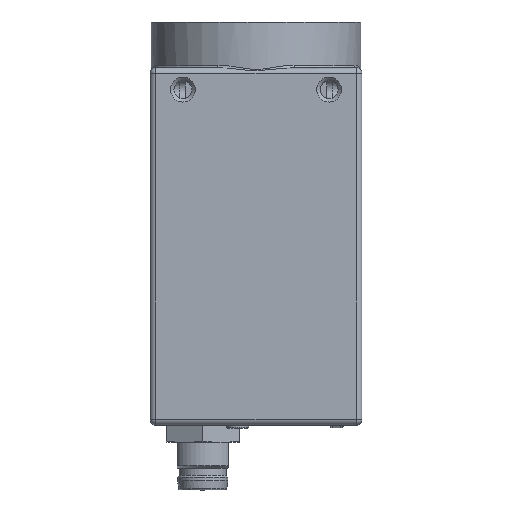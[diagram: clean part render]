
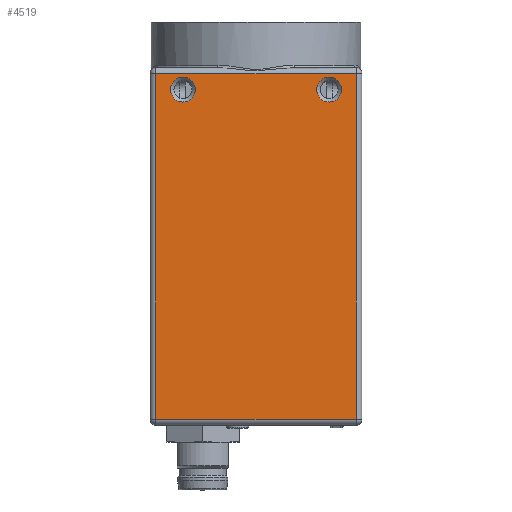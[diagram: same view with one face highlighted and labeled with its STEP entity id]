
A CAD part, left-side view. The second image highlights one B-rep face of the part: STEP entity #4519.
In plain terms, the highlighted planar face has unit normal (-1, 0, 0).
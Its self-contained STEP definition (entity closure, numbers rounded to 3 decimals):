
#4519 = ADVANCED_FACE( '', ( #10899, #10900, #10901 ), #10902, .T. );
#10899 = FACE_BOUND( '', #19577, .T. );
#10900 = FACE_BOUND( '', #19578, .T. );
#10901 = FACE_OUTER_BOUND( '', #19579, .T. );
#10902 = PLANE( '', #19580 );
#19577 = EDGE_LOOP( '', ( #33934 ) );
#19578 = EDGE_LOOP( '', ( #33935 ) );
#19579 = EDGE_LOOP( '', ( #33936, #33937, #33938, #33939 ) );
#19580 = AXIS2_PLACEMENT_3D( '', #33940, #33941, #33942 );
#33934 = ORIENTED_EDGE( '', *, *, #47693, .T. );
#33935 = ORIENTED_EDGE( '', *, *, #51440, .T. );
#33936 = ORIENTED_EDGE( '', *, *, #51441, .T. );
#33937 = ORIENTED_EDGE( '', *, *, #51442, .T. );
#33938 = ORIENTED_EDGE( '', *, *, #51443, .T. );
#33939 = ORIENTED_EDGE( '', *, *, #50315, .T. );
#33940 = CARTESIAN_POINT( '', ( -14.5, -14.5, 12.2 ) );
#33941 = DIRECTION( '', ( -1., 0., 0. ) );
#33942 = DIRECTION( '', ( 0., 0., 1. ) );
#47693 = EDGE_CURVE( '', #56828, #56828, #56829, .T. );
#50315 = EDGE_CURVE( '', #56006, #61206, #61208, .T. );
#51440 = EDGE_CURVE( '', #62860, #62860, #62861, .T. );
#51441 = EDGE_CURVE( '', #61206, #62862, #62863, .T. );
#51442 = EDGE_CURVE( '', #62862, #62864, #62865, .F. );
#51443 = EDGE_CURVE( '', #62864, #56006, #62866, .T. );
#56006 = VERTEX_POINT( '', #68647 );
#56828 = VERTEX_POINT( '', #69824 );
#56829 = CIRCLE( '', #69825, 1.7 );
#61206 = VERTEX_POINT( '', #76298 );
#61208 = LINE( '', #76300, #76301 );
#62860 = VERTEX_POINT( '', #78959 );
#62861 = CIRCLE( '', #78960, 1.7 );
#62862 = VERTEX_POINT( '', #78961 );
#62863 = LINE( '', #78962, #78963 );
#62864 = VERTEX_POINT( '', #78964 );
#62865 = LINE( '', #78965, #78966 );
#62866 = LINE( '', #78967, #78968 );
#68647 = CARTESIAN_POINT( '', ( -14.5, 13.7, 11.4 ) );
#69824 = CARTESIAN_POINT( '', ( -14.5, -8.3, 9.2 ) );
#69825 = AXIS2_PLACEMENT_3D( '', #86760, #86761, #86762 );
#76298 = CARTESIAN_POINT( '', ( -14.5, 13.7, -35.9 ) );
#76300 = CARTESIAN_POINT( '', ( -14.5, 13.7, 12.2 ) );
#76301 = VECTOR( '', #90152, 1000. );
#78959 = CARTESIAN_POINT( '', ( -14.5, 11.7, 9.2 ) );
#78960 = AXIS2_PLACEMENT_3D( '', #91448, #91449, #91450 );
#78961 = CARTESIAN_POINT( '', ( -14.5, -13.7, -35.9 ) );
#78962 = CARTESIAN_POINT( '', ( -14.5, -14.5, -35.9 ) );
#78963 = VECTOR( '', #91451, 1000. );
#78964 = CARTESIAN_POINT( '', ( -14.5, -13.7, 11.4 ) );
#78965 = CARTESIAN_POINT( '', ( -14.5, -13.7, 12.2 ) );
#78966 = VECTOR( '', #91452, 1000. );
#78967 = CARTESIAN_POINT( '', ( -14.5, 14.5, 11.4 ) );
#78968 = VECTOR( '', #91453, 1000. );
#86760 = CARTESIAN_POINT( '', ( -14.5, -10., 9.2 ) );
#86761 = DIRECTION( '', ( 1., 0., 0. ) );
#86762 = DIRECTION( '', ( 0., 1., 0. ) );
#90152 = DIRECTION( '', ( 0., 0., -1. ) );
#91448 = CARTESIAN_POINT( '', ( -14.5, 10., 9.2 ) );
#91449 = DIRECTION( '', ( 1., 0., 0. ) );
#91450 = DIRECTION( '', ( 0., 1., 0. ) );
#91451 = DIRECTION( '', ( 0., -1., 0. ) );
#91452 = DIRECTION( '', ( 0., 0., -1. ) );
#91453 = DIRECTION( '', ( 0., 1., 0. ) );
